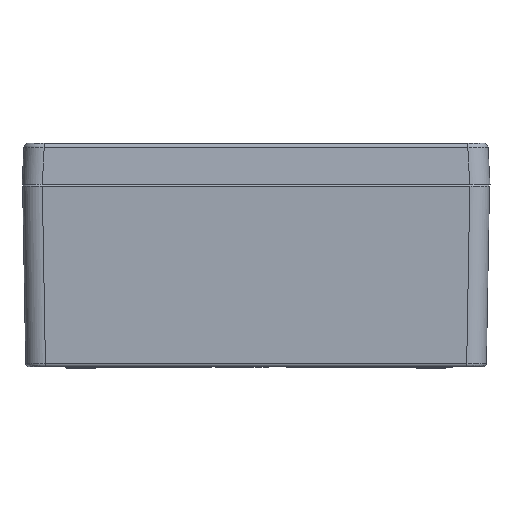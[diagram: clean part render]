
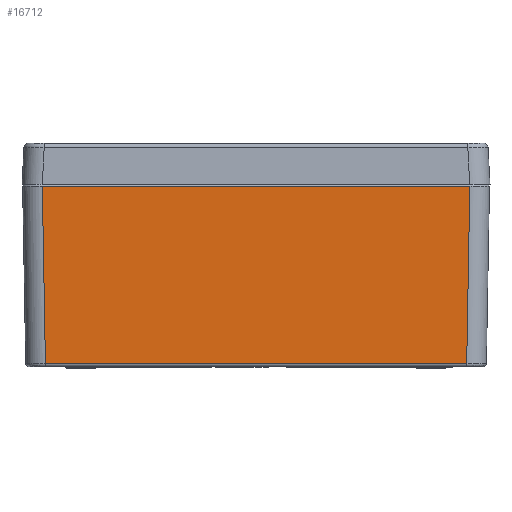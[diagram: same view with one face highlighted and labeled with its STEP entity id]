
A CAD part, left-side view. The second image highlights one B-rep face of the part: STEP entity #16712.
In plain terms, the highlighted planar face has unit normal (-1, 0, -0.018).
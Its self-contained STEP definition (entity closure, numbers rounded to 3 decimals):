
#2541 = CARTESIAN_POINT ( 'NONE',  ( -163.456, -103.758, -88.428 ) ) ;
#11394 = LINE ( 'NONE', #61954, #80067 ) ;
#12461 = EDGE_CURVE ( 'NONE', #108943, #57112, #104002, .T. ) ;
#13054 = VERTEX_POINT ( 'NONE', #2541 ) ;
#13236 = CARTESIAN_POINT ( 'NONE',  ( -164.983, -115., -0.983 ) ) ;
#15320 = EDGE_CURVE ( 'NONE', #66698, #57112, #118059, .T. ) ;
#16712 = ADVANCED_FACE ( 'NONE', ( #66306 ), #105275, .T. ) ;
#21546 = ORIENTED_EDGE ( 'NONE', *, *, #111307, .F. ) ;
#29808 = DIRECTION ( 'NONE',  ( -0.017, 0.017, 1. ) ) ;
#30890 = DIRECTION ( 'NONE',  ( 0., 1., 0. ) ) ;
#34778 = DIRECTION ( 'NONE',  ( -0.017, -0.017, 1. ) ) ;
#46999 = AXIS2_PLACEMENT_3D ( 'NONE', #59568, #114544, #104145 ) ;
#47867 = LINE ( 'NONE', #95315, #77963 ) ;
#53560 = CARTESIAN_POINT ( 'NONE',  ( -164.983, 105.284, -0.983 ) ) ;
#54629 = ORIENTED_EDGE ( 'NONE', *, *, #15320, .F. ) ;
#55242 = VECTOR ( 'NONE', #86439, 1000. ) ;
#56404 = VECTOR ( 'NONE', #29808, 1000. ) ;
#57112 = VERTEX_POINT ( 'NONE', #53560 ) ;
#59568 = CARTESIAN_POINT ( 'NONE',  ( -163.342, -115., -94.986 ) ) ;
#59578 = ORIENTED_EDGE ( 'NONE', *, *, #73699, .T. ) ;
#60504 = EDGE_LOOP ( 'NONE', ( #54629, #21546, #59578, #75995 ) ) ;
#61954 = CARTESIAN_POINT ( 'NONE',  ( -163.456, -103.758, -88.428 ) ) ;
#66306 = FACE_OUTER_BOUND ( 'NONE', #60504, .T. ) ;
#66698 = VERTEX_POINT ( 'NONE', #116902 ) ;
#73699 = EDGE_CURVE ( 'NONE', #13054, #108943, #11394, .T. ) ;
#74287 = CARTESIAN_POINT ( 'NONE',  ( -164.983, -105.284, -0.983 ) ) ;
#75995 = ORIENTED_EDGE ( 'NONE', *, *, #12461, .T. ) ;
#77963 = VECTOR ( 'NONE', #30890, 1000. ) ;
#80067 = VECTOR ( 'NONE', #34778, 1000. ) ;
#86439 = DIRECTION ( 'NONE',  ( 0., 1., 0. ) ) ;
#95315 = CARTESIAN_POINT ( 'NONE',  ( -163.456, 0., -88.428 ) ) ;
#104002 = LINE ( 'NONE', #13236, #55242 ) ;
#104145 = DIRECTION ( 'NONE',  ( -0.017, 0., 1. ) ) ;
#105275 = PLANE ( 'NONE',  #46999 ) ;
#108943 = VERTEX_POINT ( 'NONE', #74287 ) ;
#111307 = EDGE_CURVE ( 'NONE', #13054, #66698, #47867, .T. ) ;
#113040 = CARTESIAN_POINT ( 'NONE',  ( -164.215, 104.516, -45. ) ) ;
#114544 = DIRECTION ( 'NONE',  ( -1., 0., -0.017 ) ) ;
#116902 = CARTESIAN_POINT ( 'NONE',  ( -163.456, 103.758, -88.428 ) ) ;
#118059 = LINE ( 'NONE', #113040, #56404 ) ;
